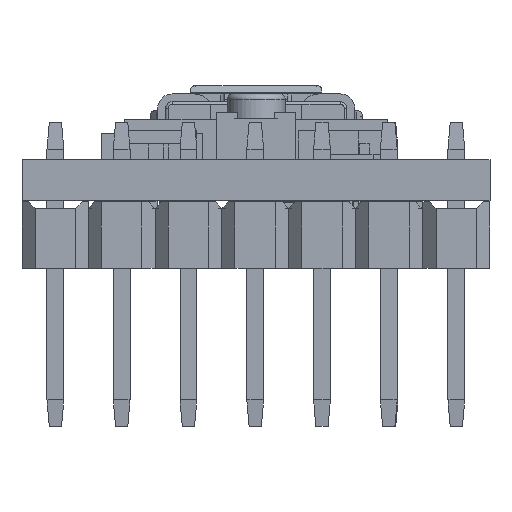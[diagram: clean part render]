
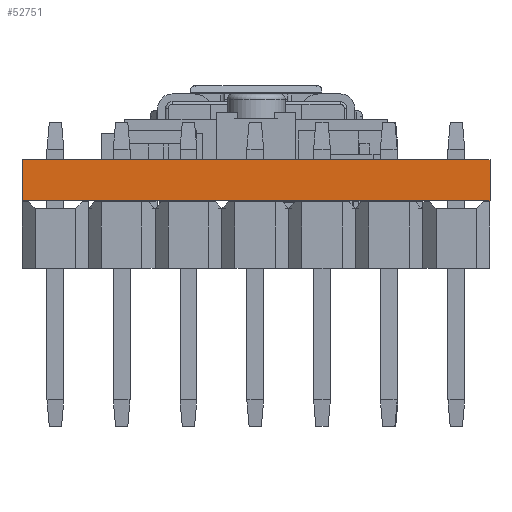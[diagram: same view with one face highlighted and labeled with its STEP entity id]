
A CAD part, front view. The second image highlights one B-rep face of the part: STEP entity #52751.
In plain terms, the highlighted planar face has unit normal (0, -1, 0).
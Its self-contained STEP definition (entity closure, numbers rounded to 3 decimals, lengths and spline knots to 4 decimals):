
#1218=LINE($,#79818,#7289);
#1220=LINE($,#79824,#7291);
#1312=LINE($,#80006,#7383);
#1314=LINE($,#80010,#7385);
#7289=VECTOR($,#63941,1.778);
#7291=VECTOR($,#63945,1.778);
#7383=VECTOR($,#64039,0.157);
#7385=VECTOR($,#64045,0.157);
#13146=PLANE($,#57114);
#16192=FACE_OUTER_BOUND($,#19950,.T.);
#19950=EDGE_LOOP($,(#39139,#39140,#39141,#39142));
#25119=VERTEX_POINT($,#79811);
#25122=VERTEX_POINT($,#79816);
#25123=VERTEX_POINT($,#79820);
#25125=VERTEX_POINT($,#79823);
#30232=EDGE_CURVE($,#25122,#25119,#1218,.T.);
#30234=EDGE_CURVE($,#25125,#25123,#1220,.T.);
#30326=EDGE_CURVE($,#25119,#25123,#1312,.T.);
#30328=EDGE_CURVE($,#25122,#25125,#1314,.T.);
#39139=ORIENTED_EDGE($,*,*,#30234,.T.);
#39140=ORIENTED_EDGE($,*,*,#30326,.F.);
#39141=ORIENTED_EDGE($,*,*,#30232,.F.);
#39142=ORIENTED_EDGE($,*,*,#30328,.T.);
#52751=ADVANCED_FACE($,(#16192),#13146,.F.);
#57114=AXIS2_PLACEMENT_3D($,#80011,#64046,#64047);
#63941=DIRECTION($,(1.,0.,0.));
#63945=DIRECTION($,(1.,0.,0.));
#64039=DIRECTION($,(0.,0.,-1.));
#64045=DIRECTION($,(0.,0.,-1.));
#64046=DIRECTION('center_axis',(0.,1.,0.));
#64047=DIRECTION('ref_axis',(-1.,0.,0.));
#79811=CARTESIAN_POINT('',(0.889,-1.654,-0.037));
#79816=CARTESIAN_POINT('',(-0.889,-1.654,-0.037));
#79818=CARTESIAN_POINT($,(-0.889,-1.654,-0.037));
#79820=CARTESIAN_POINT('',(0.889,-1.654,-0.194));
#79823=CARTESIAN_POINT('',(-0.889,-1.654,-0.194));
#79824=CARTESIAN_POINT($,(-0.889,-1.654,-0.194));
#80006=CARTESIAN_POINT($,(0.889,-1.654,-0.037));
#80010=CARTESIAN_POINT($,(-0.889,-1.654,-0.037));
#80011=CARTESIAN_POINT('Origin',(-0.889,-1.654,-0.037));
